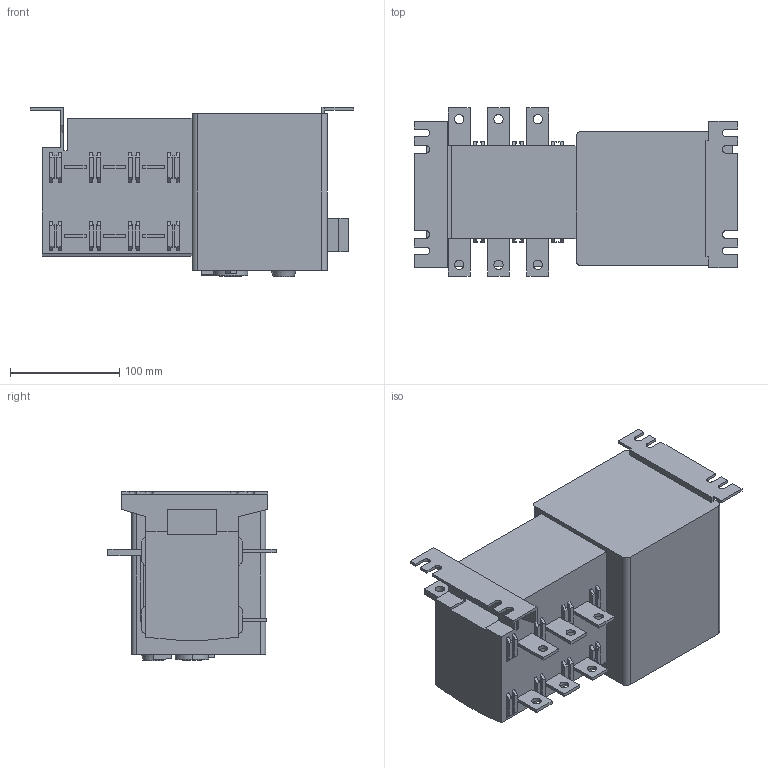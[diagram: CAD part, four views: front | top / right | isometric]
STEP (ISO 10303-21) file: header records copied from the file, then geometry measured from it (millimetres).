
FILE_DESCRIPTION((''),'2;1');
FILE_NAME('NH40-16031','2020-06-16T',('sft'),(''),'CREO PARAMETRIC BY PTC INC, 2014350','CREO PARAMETRIC BY PTC INC, 2014350','');
FILE_SCHEMA(('CONFIG_CONTROL_DESIGN'));
Length unit declared in the file: millimetre
Products named in the file (1): NH40-16031
Bounding box: 296 x 154 x 155 mm (x, y, z)
Volume: 3664547 mm3; surface area: 212041.4 mm2
Topology: 1 solids, 1 shells, 409 faces, 1088 edges, 724 vertices
Faces by surface type: plane 371, cylinder 34, sphere 2, cone 2
Entity records: 12602 total; most frequent: CARTESIAN_POINT 2221, ORIENTED_EDGE 2176, DIRECTION 1988, EDGE_CURVE 1088, VECTOR 1006, LINE 1006, VERTEX_POINT 724, AXIS2_PLACEMENT_3D 491
